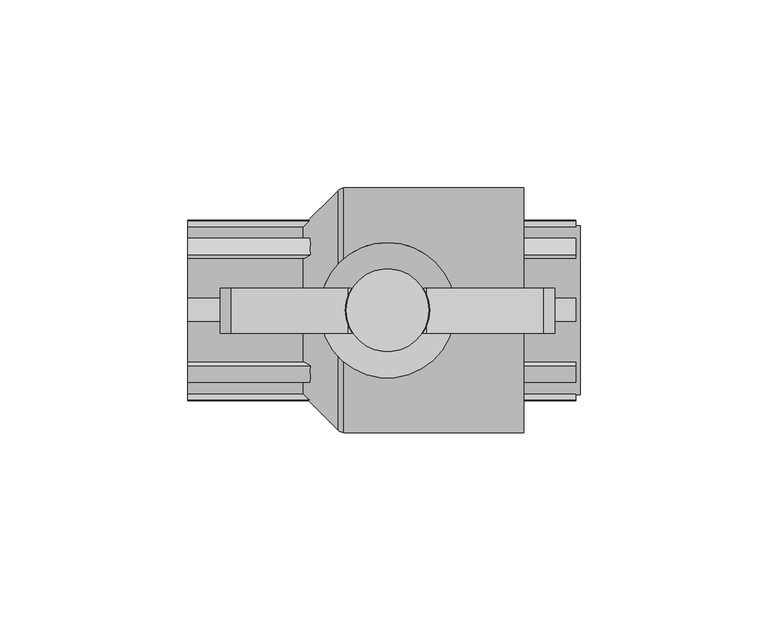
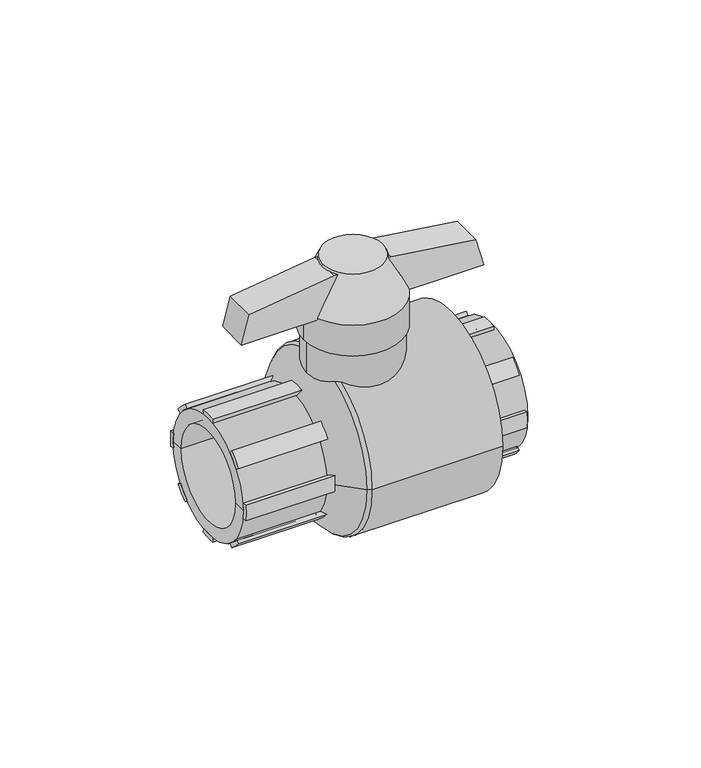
"""IFC4 building model written with IfcOpenShell, lengths in millimetres: valve geometry, Valvula Bola_Lubrizol_CPVC_FlowGuard_MX 32mm : Valvula Bola_Lubrizol_CPVC_FlowGuard_MX 32mm."""

from ifc_helpers import new_model, si_unit, point, frame, frame_2d, origin, place, context, project, spatial, polyline, circle_curve, ellipse_curve, trimmed, segment, composite_curve, outline, extrude, source, transform, mapped, element, save
from ifc_brep_helpers import plane_surface, cylinder_surface, revolved_surface, advanced_brep


def valve_62a3f878(model_context):
    return source(origin(), model_context, "Body", "SolidModel", [
        extrude(outline(composite_curve([segment(trimmed(circle_curve(frame_2d((0.1413673, 2.2347713)), 20.2671095), [point((3.0203823, 22.2963515))], [point((-2.7376477, 22.2963515))], True, "CARTESIAN"), True, "CONTINUOUS"), segment(polyline([(-2.7376477, 22.2963515), (-2.9248642, 23.8211076)]), True, "CONTINUOUS"), segment(trimmed(circle_curve(frame_2d((0.1510348, -2.4693975)), 26.4698284), [point((-2.9248642, 23.8211076))], [point((3.2269339, 23.8211076))], False, "CARTESIAN"), True, "CONTINUOUS"), segment(polyline([(3.2269339, 23.8211076), (3.0203823, 22.2963515)]), True, "CONTINUOUS")], self_intersect=False)), frame((54.375, 0.0, 0.0), z_axis=(1.0, 0.0, 0.0), x_axis=(0.0, 1.0, 0.0)), (0.0, 0.0, 1.0), 13.8683406),
        extrude(outline(composite_curve([segment(polyline([(22.2963515, 3.0203823), (23.8211076, 3.2269339)]), True, "CONTINUOUS"), segment(trimmed(circle_curve(frame_2d((-2.4693975, 0.1510348)), 26.4698284), [point((23.8211076, 3.2269339))], [point((23.8211076, -2.9248642))], False, "CARTESIAN"), True, "CONTINUOUS"), segment(polyline([(23.8211076, -2.9248642), (22.2963515, -2.7376477)]), True, "CONTINUOUS"), segment(trimmed(circle_curve(frame_2d((2.2347713, 0.1413673)), 20.2671095), [point((22.2963515, -2.7376477))], [point((22.2963515, 3.0203823))], True, "CARTESIAN"), True, "CONTINUOUS")], self_intersect=False)), frame((54.375, 0.0, 0.0), z_axis=(1.0, 0.0, 0.0), x_axis=(0.0, 1.0, 0.0)), (0.0, 0.0, 1.0), 13.8683406),
        extrude(outline(composite_curve([segment(trimmed(circle_curve(frame_2d((1.6801837, 1.4802602)), 20.2671095), [point((17.9016342, 13.6301685))], [point((13.8300921, 17.7017106))], True, "CARTESIAN"), True, "CONTINUOUS"), segment(polyline([(13.8300921, 17.7017106), (14.7758754, 18.9122581)]), True, "CONTINUOUS"), segment(trimmed(circle_curve(frame_2d((-1.63933, -1.8529255)), 26.4698284), [point((14.7758754, 18.9122581))], [point((19.1258536, 14.5622799))], False, "CARTESIAN"), True, "CONTINUOUS"), segment(polyline([(19.1258536, 14.5622799), (17.9016342, 13.6301685)]), True, "CONTINUOUS")], self_intersect=False)), frame((54.375, 0.0, 0.0), z_axis=(1.0, 0.0, 0.0), x_axis=(0.0, 1.0, 0.0)), (0.0, 0.0, 1.0), 13.8683406),
        extrude(outline(composite_curve([segment(polyline([(17.9016342, -13.6301685), (19.1258536, -14.5622799)]), True, "CONTINUOUS"), segment(trimmed(circle_curve(frame_2d((-1.63933, 1.8529255)), 26.4698284), [point((19.1258536, -14.5622799))], [point((14.7758754, -18.9122581))], False, "CARTESIAN"), True, "CONTINUOUS"), segment(polyline([(14.7758754, -18.9122581), (13.8300921, -17.7017106)]), True, "CONTINUOUS"), segment(trimmed(circle_curve(frame_2d((1.6801837, -1.4802602)), 20.2671095), [point((13.8300921, -17.7017106))], [point((17.9016342, -13.6301685))], True, "CARTESIAN"), True, "CONTINUOUS")], self_intersect=False)), frame((54.375, 0.0, 0.0), z_axis=(1.0, 0.0, 0.0), x_axis=(0.0, 1.0, 0.0)), (0.0, 0.0, 1.0), 13.8683406),
        extrude(outline(composite_curve([segment(polyline([(3.0203823, -22.2963515), (3.2269339, -23.8211076)]), True, "CONTINUOUS"), segment(trimmed(circle_curve(frame_2d((0.1510348, 2.4693975)), 26.4698284), [point((3.2269339, -23.8211076))], [point((-2.9248642, -23.8211076))], False, "CARTESIAN"), True, "CONTINUOUS"), segment(polyline([(-2.9248642, -23.8211076), (-2.7376477, -22.2963515)]), True, "CONTINUOUS"), segment(trimmed(circle_curve(frame_2d((0.1413673, -2.2347713)), 20.2671095), [point((-2.7376477, -22.2963515))], [point((3.0203823, -22.2963515))], True, "CARTESIAN"), True, "CONTINUOUS")], self_intersect=False)), frame((54.375, 0.0, 0.0), z_axis=(1.0, 0.0, 0.0), x_axis=(0.0, 1.0, 0.0)), (0.0, 0.0, 1.0), 13.8683406),
        extrude(outline(composite_curve([segment(trimmed(circle_curve(frame_2d((-2.2347713, 0.1413673)), 20.2671095), [point((-22.2963515, 3.0203823))], [point((-22.2963515, -2.7376477))], True, "CARTESIAN"), True, "CONTINUOUS"), segment(polyline([(-22.2963515, -2.7376477), (-23.8211076, -2.9248642)]), True, "CONTINUOUS"), segment(trimmed(circle_curve(frame_2d((2.4693975, 0.1510348)), 26.4698284), [point((-23.8211076, -2.9248642))], [point((-23.8211076, 3.2269339))], False, "CARTESIAN"), True, "CONTINUOUS"), segment(polyline([(-23.8211076, 3.2269339), (-22.2963515, 3.0203823)]), True, "CONTINUOUS")], self_intersect=False)), frame((54.375, 0.0, 0.0), z_axis=(1.0, 0.0, 0.0), x_axis=(0.0, 1.0, 0.0)), (0.0, 0.0, 1.0), 13.8683406),
        extrude(outline(composite_curve([segment(polyline([(-17.9016342, 13.6301685), (-19.1258536, 14.5622799)]), True, "CONTINUOUS"), segment(trimmed(circle_curve(frame_2d((1.63933, -1.8529255)), 26.4698284), [point((-19.1258536, 14.5622799))], [point((-14.7758754, 18.9122581))], False, "CARTESIAN"), True, "CONTINUOUS"), segment(polyline([(-14.7758754, 18.9122581), (-13.8300921, 17.7017106)]), True, "CONTINUOUS"), segment(trimmed(circle_curve(frame_2d((-1.6801837, 1.4802602)), 20.2671095), [point((-13.8300921, 17.7017106))], [point((-17.9016342, 13.6301685))], True, "CARTESIAN"), True, "CONTINUOUS")], self_intersect=False)), frame((54.375, 0.0, 0.0), z_axis=(1.0, 0.0, 0.0), x_axis=(0.0, 1.0, 0.0)), (0.0, 0.0, 1.0), 13.8683406),
        extrude(outline(composite_curve([segment(trimmed(circle_curve(frame_2d((-1.6801837, -1.4802602)), 20.2671095), [point((-17.9016342, -13.6301685))], [point((-13.8300921, -17.7017106))], True, "CARTESIAN"), True, "CONTINUOUS"), segment(polyline([(-13.8300921, -17.7017106), (-14.7758754, -18.9122581)]), True, "CONTINUOUS"), segment(trimmed(circle_curve(frame_2d((1.63933, 1.8529255)), 26.4698284), [point((-14.7758754, -18.9122581))], [point((-19.1258536, -14.5622799))], False, "CARTESIAN"), True, "CONTINUOUS"), segment(polyline([(-19.1258536, -14.5622799), (-17.9016342, -13.6301685)]), True, "CONTINUOUS")], self_intersect=False)), frame((54.375, 0.0, 0.0), z_axis=(1.0, 0.0, 0.0), x_axis=(0.0, 1.0, 0.0)), (0.0, 0.0, 1.0), 13.8683406),
        extrude(outline(polyline([(51.6194234, -26.3749423), (51.6194234, 62.6249423), (62.3168705, 59.75857), (66.6194234, 28.6250577), (66.6194234, 7.6249423), (62.3168705, -23.50857), (51.6194234, -26.3749423)])), frame((0.0, -6.1661355, 0.0), z_axis=(0.0, 1.0, 0.0), x_axis=(0.0, 0.0, 1.0)), (0.0, 0.0, 1.0), 12.0),
        advanced_brep(
        [(7.125, 0.0, 67.6194234), (29.125, 0.0, 67.6194234), (0.125, 0.0, 52.6194234), (36.125, 0.0, 52.6194234)],
        [
            (0, 1, circle_curve(frame((18.125, 0.0, 67.6194234), z_axis=(0.0, 0.0, 1.0), x_axis=(-1.0, 0.0, 0.0)), 11.0)),
            (1, 0, circle_curve(frame((18.125, 0.0, 67.6194234), z_axis=(0.0, 0.0, 1.0), x_axis=(1.0, 0.0, 0.0)), 11.0)),
            (2, 3, circle_curve(frame((18.125, 0.0, 52.6194234), z_axis=(0.0, 0.0, -1.0), x_axis=(1.0, 0.0, 0.0)), 18.0)),
            (3, 2, circle_curve(frame((18.125, 0.0, 52.6194234), z_axis=(0.0, 0.0, -1.0), x_axis=(-1.0, 0.0, 0.0)), 18.0)),
            (3, 1),
            (0, 2),
        ],
        [
            plane_surface(frame((18.125, 0.0, 67.6194234), z_axis=(0.0, 0.0, 1.0), x_axis=(0.0, -1.0, 0.0))),
            plane_surface(frame((18.125, 0.0, 52.6194234), z_axis=(0.0, 0.0, -1.0), x_axis=(0.0, -1.0, 0.0))),
            revolved_surface(polyline([(7.124999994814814, 0.0, 67.6194234), (0.125, 0.0, 52.6194234)]), (18.125, 0.0, 91.190852), (0.0, 0.0, -1.0)),
            revolved_surface(polyline([(29.125000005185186, 0.0, 67.6194234), (36.125, 0.0, 52.6194234)]), (18.125, 0.0, 91.190852), (0.0, 0.0, -1.0)),
        ],
        [
            (0, [[1, 2]]),
            (1, [[3, 4]]),
            (2, [[-4, 5, -1, 6]]),
            (3, [[-3, -6, -2, -5]]),
        ],
    ),
        extrude(outline(composite_curve([segment(trimmed(circle_curve(frame_2d((18.125, 0.0)), 18.0), [point((0.125, 0.0))], [point((36.125, 0.0))], False, "CARTESIAN"), True, "CONTINUOUS"), segment(trimmed(circle_curve(frame_2d((18.125, 0.0)), 18.0), [point((36.125, 0.0))], [point((0.125, 0.0))], False, "CARTESIAN"), True, "CONTINUOUS")], self_intersect=False)), frame((0.0, 0.0, 40.6194234), z_axis=(0.0, 0.0, 1.0), x_axis=(1.0, 0.0, 0.0)), (0.0, 0.0, 1.0), 12.0),
        extrude(outline(composite_curve([segment(trimmed(circle_curve(frame_2d((0.1413673, 2.2347713)), 20.2671095), [point((3.0203823, 22.2963515))], [point((-2.7376477, 22.2963515))], True, "CARTESIAN"), True, "CONTINUOUS"), segment(polyline([(-2.7376477, 22.2963515), (-2.9248642, 23.8211076)]), True, "CONTINUOUS"), segment(trimmed(circle_curve(frame_2d((0.1510348, -2.4693975)), 26.4698284), [point((-2.9248642, 23.8211076))], [point((3.2269339, 23.8211076))], False, "CARTESIAN"), True, "CONTINUOUS"), segment(polyline([(3.2269339, 23.8211076), (3.0203823, 22.2963515)]), True, "CONTINUOUS")], self_intersect=False)), frame((-35.0, 0.0, 0.0), z_axis=(1.0, 0.0, 0.0), x_axis=(0.0, 1.0, 0.0)), (0.0, 0.0, 1.0), 37.0),
        extrude(outline(composite_curve([segment(polyline([(22.2963515, 3.0203823), (23.8211076, 3.2269339)]), True, "CONTINUOUS"), segment(trimmed(circle_curve(frame_2d((-2.4693975, 0.1510348)), 26.4698284), [point((23.8211076, 3.2269339))], [point((23.8211076, -2.9248642))], False, "CARTESIAN"), True, "CONTINUOUS"), segment(polyline([(23.8211076, -2.9248642), (22.2963515, -2.7376477)]), True, "CONTINUOUS"), segment(trimmed(circle_curve(frame_2d((2.2347713, 0.1413673)), 20.2671095), [point((22.2963515, -2.7376477))], [point((22.2963515, 3.0203823))], True, "CARTESIAN"), True, "CONTINUOUS")], self_intersect=False)), frame((-35.0, 0.0, 0.0), z_axis=(1.0, 0.0, 0.0), x_axis=(0.0, 1.0, 0.0)), (0.0, 0.0, 1.0), 37.0),
        extrude(outline(composite_curve([segment(trimmed(circle_curve(frame_2d((1.6801837, 1.4802602)), 20.2671095), [point((17.9016342, 13.6301685))], [point((13.8300921, 17.7017106))], True, "CARTESIAN"), True, "CONTINUOUS"), segment(polyline([(13.8300921, 17.7017106), (14.7758754, 18.9122581)]), True, "CONTINUOUS"), segment(trimmed(circle_curve(frame_2d((-1.63933, -1.8529255)), 26.4698284), [point((14.7758754, 18.9122581))], [point((19.1258536, 14.5622799))], False, "CARTESIAN"), True, "CONTINUOUS"), segment(polyline([(19.1258536, 14.5622799), (17.9016342, 13.6301685)]), True, "CONTINUOUS")], self_intersect=False)), frame((-35.0, 0.0, 0.0), z_axis=(1.0, 0.0, 0.0), x_axis=(0.0, 1.0, 0.0)), (0.0, 0.0, 1.0), 37.0),
        extrude(outline(composite_curve([segment(polyline([(17.9016342, -13.6301685), (19.1258536, -14.5622799)]), True, "CONTINUOUS"), segment(trimmed(circle_curve(frame_2d((-1.63933, 1.8529255)), 26.4698284), [point((19.1258536, -14.5622799))], [point((14.7758754, -18.9122581))], False, "CARTESIAN"), True, "CONTINUOUS"), segment(polyline([(14.7758754, -18.9122581), (13.8300921, -17.7017106)]), True, "CONTINUOUS"), segment(trimmed(circle_curve(frame_2d((1.6801837, -1.4802602)), 20.2671095), [point((13.8300921, -17.7017106))], [point((17.9016342, -13.6301685))], True, "CARTESIAN"), True, "CONTINUOUS")], self_intersect=False)), frame((-35.0, 0.0, 0.0), z_axis=(1.0, 0.0, 0.0), x_axis=(0.0, 1.0, 0.0)), (0.0, 0.0, 1.0), 37.0),
        extrude(outline(composite_curve([segment(polyline([(3.0203823, -22.2963515), (3.2269339, -23.8211076)]), True, "CONTINUOUS"), segment(trimmed(circle_curve(frame_2d((0.1510348, 2.4693975)), 26.4698284), [point((3.2269339, -23.8211076))], [point((-2.9248642, -23.8211076))], False, "CARTESIAN"), True, "CONTINUOUS"), segment(polyline([(-2.9248642, -23.8211076), (-2.7376477, -22.2963515)]), True, "CONTINUOUS"), segment(trimmed(circle_curve(frame_2d((0.1413673, -2.2347713)), 20.2671095), [point((-2.7376477, -22.2963515))], [point((3.0203823, -22.2963515))], True, "CARTESIAN"), True, "CONTINUOUS")], self_intersect=False)), frame((-35.0, 0.0, 0.0), z_axis=(1.0, 0.0, 0.0), x_axis=(0.0, 1.0, 0.0)), (0.0, 0.0, 1.0), 37.0),
        extrude(outline(composite_curve([segment(trimmed(circle_curve(frame_2d((-2.2347713, 0.1413673)), 20.2671095), [point((-22.2963515, 3.0203823))], [point((-22.2963515, -2.7376477))], True, "CARTESIAN"), True, "CONTINUOUS"), segment(polyline([(-22.2963515, -2.7376477), (-23.8211076, -2.9248642)]), True, "CONTINUOUS"), segment(trimmed(circle_curve(frame_2d((2.4693975, 0.1510348)), 26.4698284), [point((-23.8211076, -2.9248642))], [point((-23.8211076, 3.2269339))], False, "CARTESIAN"), True, "CONTINUOUS"), segment(polyline([(-23.8211076, 3.2269339), (-22.2963515, 3.0203823)]), True, "CONTINUOUS")], self_intersect=False)), frame((-35.0, 0.0, 0.0), z_axis=(1.0, 0.0, 0.0), x_axis=(0.0, 1.0, 0.0)), (0.0, 0.0, 1.0), 37.0),
        extrude(outline(composite_curve([segment(polyline([(-17.9016342, 13.6301685), (-19.1258536, 14.5622799)]), True, "CONTINUOUS"), segment(trimmed(circle_curve(frame_2d((1.63933, -1.8529255)), 26.4698284), [point((-19.1258536, 14.5622799))], [point((-14.7758754, 18.9122581))], False, "CARTESIAN"), True, "CONTINUOUS"), segment(polyline([(-14.7758754, 18.9122581), (-13.8300921, 17.7017106)]), True, "CONTINUOUS"), segment(trimmed(circle_curve(frame_2d((-1.6801837, 1.4802602)), 20.2671095), [point((-13.8300921, 17.7017106))], [point((-17.9016342, 13.6301685))], True, "CARTESIAN"), True, "CONTINUOUS")], self_intersect=False)), frame((-35.0, 0.0, 0.0), z_axis=(1.0, 0.0, 0.0), x_axis=(0.0, 1.0, 0.0)), (0.0, 0.0, 1.0), 37.0),
        extrude(outline(composite_curve([segment(trimmed(circle_curve(frame_2d((-1.6801837, -1.4802602)), 20.2671095), [point((-17.9016342, -13.6301685))], [point((-13.8300921, -17.7017106))], True, "CARTESIAN"), True, "CONTINUOUS"), segment(polyline([(-13.8300921, -17.7017106), (-14.7758754, -18.9122581)]), True, "CONTINUOUS"), segment(trimmed(circle_curve(frame_2d((1.63933, 1.8529255)), 26.4698284), [point((-14.7758754, -18.9122581))], [point((-19.1258536, -14.5622799))], False, "CARTESIAN"), True, "CONTINUOUS"), segment(polyline([(-19.1258536, -14.5622799), (-17.9016342, -13.6301685)]), True, "CONTINUOUS")], self_intersect=False)), frame((-35.0, 0.0, 0.0), z_axis=(1.0, 0.0, 0.0), x_axis=(0.0, 1.0, 0.0)), (0.0, 0.0, 1.0), 37.0),
        extrude(outline(composite_curve([segment(trimmed(circle_curve(frame_2d((18.125, 0.0)), 17.0), [point((1.125, 0.0))], [point((35.125, 0.0))], False, "CARTESIAN"), True, "CONTINUOUS"), segment(trimmed(circle_curve(frame_2d((18.125, 0.0)), 17.0), [point((35.125, 0.0))], [point((1.125, 0.0))], False, "CARTESIAN"), True, "CONTINUOUS")], self_intersect=False)), frame((0.0, 0.0, -18.1360676), z_axis=(0.0, 0.0, 1.0), x_axis=(1.0, 0.0, 0.0)), (0.0, 0.0, 1.0), 58.755491),
        advanced_brep(
        [(44.375, -17.5, 0.0), (44.375, 17.5, 0.0), (44.375, 0.0, 0.0), (69.375, -17.5, 0.0), (69.375, 17.5, 0.0), (69.375, -22.5, 0.0), (69.375, 22.5, 0.0), (54.375, -22.5, 0.0), (54.375, 22.5, 0.0), (54.375, -32.5696383, 0.0), (54.375, 32.5696383, 0.0), (6.5127117, -32.5696383, 0.0), (6.5127117, 32.5696383, 0.0), (-35.0, -22.5, 0.0), (-35.0, 22.5, 0.0), (-4.3696383, 22.5, 0.0), (-4.3696383, -22.5, 0.0), (-35.0, -17.5, 0.0), (-35.0, 17.5, 0.0), (10.0, -17.5, 0.0), (10.0, 17.5, 0.0), (10.0, 0.0, 0.0), (5.0, -31.8696383, 0.0), (5.0, 31.8696383, 0.0)],
        [
            (0, 1, circle_curve(frame((44.375, 0.0, 0.0), z_axis=(1.0, 0.0, 0.0), x_axis=(0.0, 1.0, 0.0)), 17.5)),
            (1, 2),
            (2, 0),
            (1, 0, circle_curve(frame((44.375, 0.0, 0.0), z_axis=(1.0, 0.0, 0.0), x_axis=(0.0, 1.0, 0.0)), 17.5)),
            (3, 4, circle_curve(frame((69.375, 0.0, 0.0), z_axis=(1.0, 0.0, 0.0), x_axis=(0.0, 1.0, 0.0)), 17.5)),
            (4, 1),
            (0, 3),
            (4, 3, circle_curve(frame((69.375, 0.0, 0.0), z_axis=(1.0, 0.0, 0.0), x_axis=(0.0, 1.0, 0.0)), 17.5)),
            (5, 6, circle_curve(frame((69.375, 0.0, 0.0), z_axis=(1.0, 0.0, 0.0), x_axis=(0.0, 1.0, 0.0)), 22.5)),
            (6, 4),
            (3, 5),
            (6, 5, circle_curve(frame((69.375, 0.0, 0.0), z_axis=(1.0, 0.0, 0.0), x_axis=(0.0, 1.0, 0.0)), 22.5)),
            (7, 8, circle_curve(frame((54.375, 0.0, 0.0), z_axis=(1.0, 0.0, 0.0), x_axis=(0.0, 1.0, 0.0)), 22.5)),
            (8, 6),
            (5, 7),
            (8, 7, circle_curve(frame((54.375, 0.0, 0.0), z_axis=(1.0, 0.0, 0.0), x_axis=(0.0, 1.0, 0.0)), 22.5)),
            (9, 10, circle_curve(frame((54.375, 0.0, 0.0), z_axis=(1.0, 0.0, 0.0), x_axis=(0.0, 1.0, 0.0)), 32.5696383)),
            (10, 8),
            (7, 9),
            (10, 9, circle_curve(frame((54.375, 0.0, 0.0), z_axis=(1.0, 0.0, 0.0), x_axis=(0.0, 1.0, 0.0)), 32.5696383)),
            (11, 12, circle_curve(frame((6.5127117, 0.0, 0.0), z_axis=(1.0, 0.0, 0.0), x_axis=(0.0, 1.0, 0.0)), 32.5696383)),
            (12, 10),
            (9, 11),
            (12, 11, circle_curve(frame((6.5127117, 0.0, 0.0), z_axis=(1.0, 0.0, 0.0), x_axis=(0.0, 1.0, 0.0)), 32.5696383)),
            (13, 14, circle_curve(frame((-35.0, 0.0, 0.0), z_axis=(1.0, 0.0, 0.0), x_axis=(0.0, 1.0, 0.0)), 22.5)),
            (14, 15),
            (15, 16, circle_curve(frame((-4.3696383, 0.0, 0.0), z_axis=(-1.0, 0.0, 0.0), x_axis=(0.0, 1.0, 0.0)), 22.5)),
            (16, 13),
            (14, 13, circle_curve(frame((-35.0, 0.0, 0.0), z_axis=(1.0, 0.0, 0.0), x_axis=(0.0, 1.0, 0.0)), 22.5)),
            (16, 15, circle_curve(frame((-4.3696383, 0.0, 0.0), z_axis=(-1.0, 0.0, 0.0), x_axis=(0.0, 1.0, 0.0)), 22.5)),
            (17, 18, circle_curve(frame((-35.0, 0.0, 0.0), z_axis=(1.0, 0.0, 0.0), x_axis=(0.0, 1.0, 0.0)), 17.5)),
            (18, 14),
            (13, 17),
            (18, 17, circle_curve(frame((-35.0, 0.0, 0.0), z_axis=(1.0, 0.0, 0.0), x_axis=(0.0, 1.0, 0.0)), 17.5)),
            (19, 20, circle_curve(frame((10.0, 0.0, 0.0), z_axis=(1.0, 0.0, 0.0), x_axis=(0.0, 1.0, 0.0)), 17.5)),
            (20, 18),
            (17, 19),
            (20, 19, circle_curve(frame((10.0, 0.0, 0.0), z_axis=(1.0, 0.0, 0.0), x_axis=(0.0, 1.0, 0.0)), 17.5)),
            (21, 20),
            (19, 21),
            (22, 23, circle_curve(frame((5.0, 0.0, 0.0), z_axis=(1.0, 0.0, 0.0), x_axis=(0.0, 1.0, 0.0)), 31.8696383)),
            (23, 12, circle_curve(frame((6.7092757, 30.1603627, 0.0), z_axis=(0.0, 0.0, -1.0), x_axis=(1.0, 0.0, 0.0)), 2.4172808)),
            (11, 22, circle_curve(frame((6.7092757, -30.1603627, 0.0), z_axis=(0.0, 0.0, -1.0), x_axis=(1.0, 0.0, 0.0)), 2.4172808)),
            (23, 22, circle_curve(frame((5.0, 0.0, 0.0), z_axis=(1.0, 0.0, 0.0), x_axis=(0.0, 1.0, 0.0)), 31.8696383)),
            (15, 23),
            (22, 16),
        ],
        [
            plane_surface(frame((44.375, 0.0, 0.0), z_axis=(1.0, 0.0, 0.0), x_axis=(0.0, 1.0, 0.0))),
            revolved_surface(polyline([(44.375, 17.5, 0.0), (69.375, 17.5, 0.0)]), (-38.5589691, 0.0, 0.0), (-1.0, 0.0, 0.0)),
            plane_surface(frame((69.375, 0.0, 0.0), z_axis=(1.0, 0.0, 0.0), x_axis=(0.0, 1.0, 0.0))),
            cylinder_surface(frame((-38.5589691, 0.0, 0.0), z_axis=(-1.0, 0.0, 0.0), x_axis=(0.0, 1.0, 0.0)), 22.5),
            plane_surface(frame((54.375, 0.0, 0.0), z_axis=(1.0, 0.0, 0.0), x_axis=(0.0, 1.0, 0.0))),
            cylinder_surface(frame((-38.5589691, 0.0, 0.0), z_axis=(-1.0, 0.0, 0.0), x_axis=(0.0, 1.0, 0.0)), 32.5696383),
            plane_surface(frame((-35.0, 0.0, 0.0), z_axis=(-1.0, 0.0, 0.0), x_axis=(0.0, 1.0, 0.0))),
            revolved_surface(polyline([(-35.0, 17.5, 0.0), (10.0, 17.5, 0.0)]), (-38.5589691, 0.0, 0.0), (-1.0, 0.0, 0.0)),
            plane_surface(frame((10.0, 0.0, 0.0), z_axis=(-1.0, 0.0, 0.0), x_axis=(0.0, 1.0, 0.0))),
            revolved_surface(trimmed(ellipse_curve(frame((6.7092757, 30.1603627, 0.0), z_axis=(0.0, 0.0, 1.0), x_axis=(1.0, 0.0, 0.0)), 2.4172808, 2.4172808), [point((6.5127117, 32.5696383, 0.0))], [point((5.0, 31.8696383, 0.0))], True, "CARTESIAN"), (-38.5589691, 0.0, 0.0), (-1.0, 0.0, 0.0)),
            revolved_surface(polyline([(5.0, 31.8696383, 0.0), (-4.3696383, 22.5, 0.0)]), (-38.5589691, 0.0, 0.0), (-1.0, 0.0, 0.0)),
        ],
        [
            (0, [[1, 2, 3]]),
            (0, [[4, -3, -2]]),
            (1, [[5, 6, -1, 7]]),
            (1, [[8, -7, -4, -6]]),
            (2, [[9, 10, -5, 11]]),
            (2, [[12, -11, -8, -10]]),
            (3, [[13, 14, -9, 15]]),
            (3, [[16, -15, -12, -14]]),
            (4, [[17, 18, -13, 19]]),
            (4, [[20, -19, -16, -18]]),
            (5, [[21, 22, -17, 23]]),
            (5, [[24, -23, -20, -22]]),
            (3, [[25, 26, 27, 28]]),
            (3, [[29, -28, 30, -26]]),
            (6, [[31, 32, -25, 33]]),
            (6, [[34, -33, -29, -32]]),
            (7, [[35, 36, -31, 37]]),
            (7, [[38, -37, -34, -36]]),
            (8, [[39, -35, 40]]),
            (8, [[-40, -38, -39]]),
            (9, [[41, 42, -21, 43]]),
            (9, [[44, -43, -24, -42]]),
            (10, [[-27, 45, -41, 46]]),
            (10, [[-30, -46, -44, -45]]),
        ],
    ),
    ])


if __name__ == "__main__":
    model = new_model("IFC4")
    model_context = context("Model", 3, world=origin())
    ifc_project = project(units=[si_unit("LENGTHUNIT", "METRE", prefix="MILLI")], contexts=[model_context])
    site = spatial("IfcSite", under=ifc_project)
    building = spatial("IfcBuilding", under=site)
    placement = place(None, origin())
    valve_shape = valve_62a3f878(model_context)
    element("IfcValve", 1, ObjectType="Valvula Bola_Lubrizol_CPVC_FlowGuard_MX 32mm : Valvula Bola_Lubrizol_CPVC_FlowGuard_MX 32mm", at=placement, inside=building, context=model_context, shape_type="MappedRepresentation", body=[
        mapped(valve_shape, transform((0.0, 0.0, 0.0), x_axis=(1.0, 0.0, 0.0), y_axis=(0.0, 1.0, 0.0), z_axis=(0.0, 0.0, 1.0))),
    ])
    save(model, "model.ifc")
